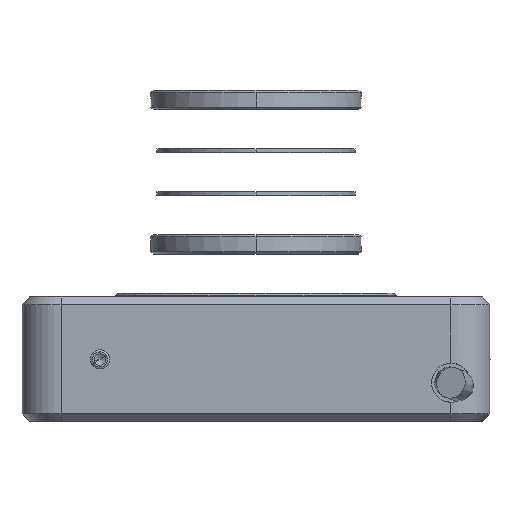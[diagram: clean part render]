
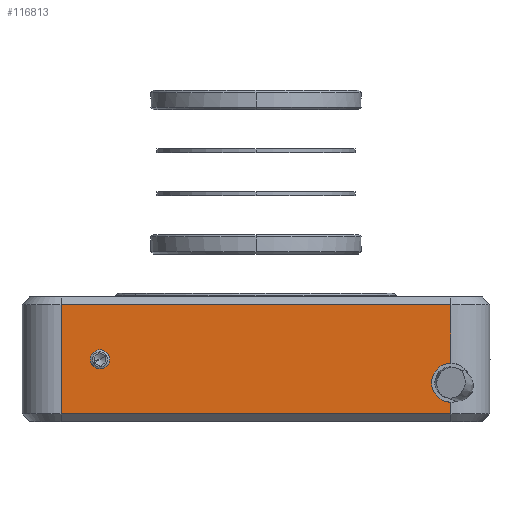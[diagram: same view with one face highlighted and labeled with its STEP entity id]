
A CAD part, left-side view. The second image highlights one B-rep face of the part: STEP entity #116813.
In plain terms, the highlighted planar face has unit normal (-1, 0, 0).
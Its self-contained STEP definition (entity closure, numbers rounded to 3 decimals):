
#4588=CARTESIAN_POINT('',(-65.012,-90.529,-31.623));
#4589=VERTEX_POINT('',#4588);
#4603=CARTESIAN_POINT('',(-65.012,-88.029,-34.123));
#4604=VERTEX_POINT('',#4603);
#4605=CARTESIAN_POINT('',(-65.012,-90.529,-34.123));
#4606=DIRECTION('',(1.0,0.0,0.0));
#4607=DIRECTION('',(0.0,-1.0,0.0));
#4608=AXIS2_PLACEMENT_3D('',#4605,#4606,#4607);
#4609=CIRCLE('',#4608,2.5);
#4610=EDGE_CURVE('',#4604,#4589,#4609,.T.);
#8864=CARTESIAN_POINT('',(-65.012,-46.759,-31.123));
#8865=VERTEX_POINT('',#8864);
#8874=CARTESIAN_POINT('',(-65.012,-44.3,-31.123));
#8875=VERTEX_POINT('',#8874);
#8876=CARTESIAN_POINT('',(-65.012,-45.529,-31.123));
#8877=DIRECTION('',(1.0,0.0,0.0));
#8878=DIRECTION('',(0.0,-1.0,0.0));
#8879=AXIS2_PLACEMENT_3D('',#8876,#8877,#8878);
#8880=CIRCLE('',#8879,1.23);
#8881=EDGE_CURVE('',#8875,#8865,#8880,.T.);
#17048=CARTESIAN_POINT('',(-65.012,-45.529,-31.123));
#17049=DIRECTION('',(1.0,0.0,0.0));
#17050=DIRECTION('',(0.0,-1.0,0.0));
#17051=AXIS2_PLACEMENT_3D('',#17048,#17049,#17050);
#17052=CIRCLE('',#17051,1.23);
#17053=EDGE_CURVE('',#8865,#8875,#17052,.T.);
#115241=CARTESIAN_POINT('',(-65.012,-40.529,-24.123));
#115242=VERTEX_POINT('',#115241);
#115265=CARTESIAN_POINT('',(-65.012,-90.529,-24.123));
#115266=VERTEX_POINT('',#115265);
#115275=CARTESIAN_POINT('',(-65.012,-40.529,-24.123));
#115276=DIRECTION('',(0.0,-1.0,0.0));
#115277=VECTOR('',#115276,50.);
#115278=LINE('',#115275,#115277);
#115279=EDGE_CURVE('',#115242,#115266,#115278,.T.);
#115665=CARTESIAN_POINT('',(-65.012,-90.529,-36.623));
#115666=VERTEX_POINT('',#115665);
#115667=CARTESIAN_POINT('',(-65.012,-90.529,-34.123));
#115668=DIRECTION('',(1.0,0.0,0.0));
#115669=DIRECTION('',(0.0,-1.0,0.0));
#115670=AXIS2_PLACEMENT_3D('',#115667,#115668,#115669);
#115671=CIRCLE('',#115670,2.5);
#115672=EDGE_CURVE('',#115666,#4604,#115671,.T.);
#115748=CARTESIAN_POINT('',(-65.012,-90.529,-38.123));
#115749=VERTEX_POINT('',#115748);
#115750=CARTESIAN_POINT('',(-65.012,-90.529,-36.623));
#115751=DIRECTION('',(0.0,0.0,-1.0));
#115752=VECTOR('',#115751,1.5);
#115753=LINE('',#115750,#115752);
#115754=EDGE_CURVE('',#115666,#115749,#115753,.T.);
#115772=CARTESIAN_POINT('',(-65.012,-90.529,-24.123));
#115773=DIRECTION('',(0.0,0.0,-1.0));
#115774=VECTOR('',#115773,7.5);
#115775=LINE('',#115772,#115774);
#115776=EDGE_CURVE('',#115266,#4589,#115775,.T.);
#116783=CARTESIAN_POINT('',(-65.012,-35.529,-39.123));
#116784=DIRECTION('',(-1.0,0.0,0.0));
#116785=DIRECTION('',(0.0,-1.0,0.0));
#116786=AXIS2_PLACEMENT_3D('',#116783,#116784,#116785);
#116787=PLANE('',#116786);
#116788=ORIENTED_EDGE('',*,*,#115672,.T.);
#116789=ORIENTED_EDGE('',*,*,#4610,.T.);
#116790=ORIENTED_EDGE('',*,*,#115776,.F.);
#116791=ORIENTED_EDGE('',*,*,#115279,.F.);
#116792=CARTESIAN_POINT('',(-65.012,-40.529,-38.123));
#116793=VERTEX_POINT('',#116792);
#116794=CARTESIAN_POINT('',(-65.012,-40.529,-38.123));
#116795=DIRECTION('',(0.0,0.0,1.0));
#116796=VECTOR('',#116795,14.0);
#116797=LINE('',#116794,#116796);
#116798=EDGE_CURVE('',#116793,#115242,#116797,.T.);
#116799=ORIENTED_EDGE('',*,*,#116798,.F.);
#116800=CARTESIAN_POINT('',(-65.012,-90.529,-38.123));
#116801=DIRECTION('',(0.0,1.0,0.0));
#116802=VECTOR('',#116801,50.0);
#116803=LINE('',#116800,#116802);
#116804=EDGE_CURVE('',#115749,#116793,#116803,.T.);
#116805=ORIENTED_EDGE('',*,*,#116804,.F.);
#116806=ORIENTED_EDGE('',*,*,#115754,.F.);
#116807=EDGE_LOOP('',(#116788,#116789,#116790,#116791,#116799,#116805,#116806));
#116808=FACE_OUTER_BOUND('',#116807,.T.);
#116809=ORIENTED_EDGE('',*,*,#17053,.T.);
#116810=ORIENTED_EDGE('',*,*,#8881,.T.);
#116811=EDGE_LOOP('',(#116809,#116810));
#116812=FACE_BOUND('',#116811,.T.);
#116813=ADVANCED_FACE('',(#116808,#116812),#116787,.T.);
